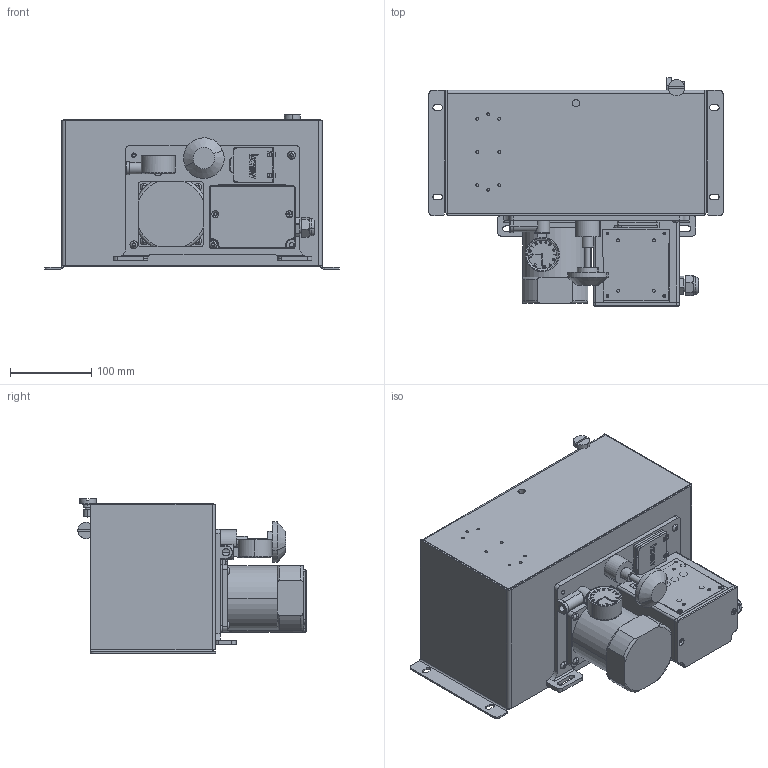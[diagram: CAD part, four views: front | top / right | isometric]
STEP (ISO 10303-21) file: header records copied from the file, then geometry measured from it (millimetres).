
FILE_DESCRIPTION (( 'STEP AP203' ), '1' );
FILE_NAME ('AMG带控制抵坑式6L.STEP', '2020-04-13T07:25:58', ( '个人用户' ), ( '微软中国' ), 'SwSTEP 2.0', 'SolidWorks 2018', '' );
FILE_SCHEMA (( 'CONFIG_CONTROL_DESIGN' ));
Length unit declared in the file: millimetre
Products named in the file (1): AMG湍諷秶萋諧宒6L
Bounding box: 362 x 280.93 x 189.56 mm (x, y, z)
Surface area: 526723 mm2 (no closed solid volume)
Topology: 0 solids, 51 shells, 579 faces, 2444 edges, 1908 vertices
Faces by surface type: plane 287, cylinder 190, cone 38, torus 30, sphere 18, bspline 16
Entity records: 30277 total; most frequent: CARTESIAN_POINT 10280, DIRECTION 4115, ORIENTED_EDGE 3544, EDGE_CURVE 2444, VERTEX_POINT 1908, VECTOR 1391, LINE 1391, AXIS2_PLACEMENT_3D 1362
